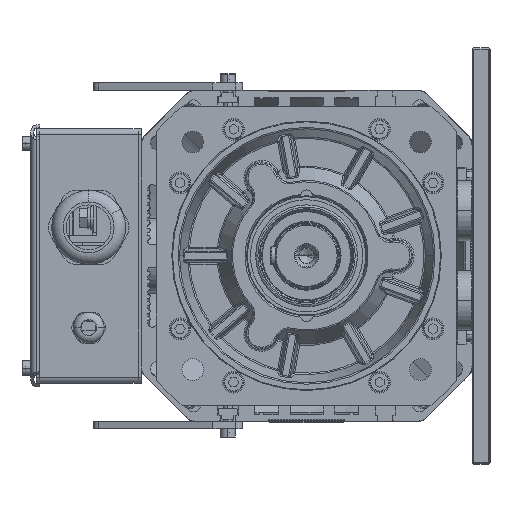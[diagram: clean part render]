
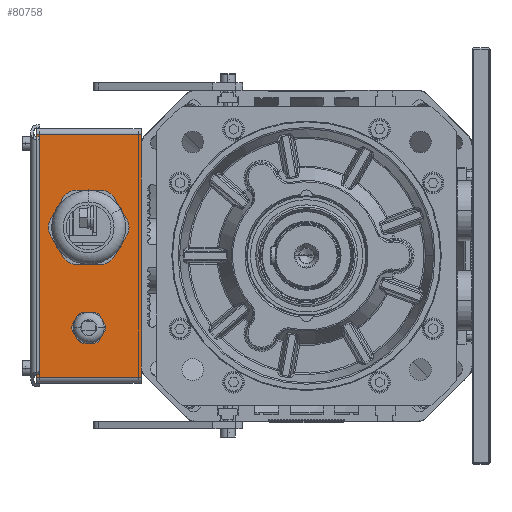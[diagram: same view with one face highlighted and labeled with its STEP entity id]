
A CAD part, left-side view. The second image highlights one B-rep face of the part: STEP entity #80758.
In plain terms, the highlighted planar face has unit normal (-1, 0, 0).
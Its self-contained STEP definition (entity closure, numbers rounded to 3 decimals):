
#78590=DIRECTION('',(0.,0.,1.));
#78591=VECTOR('',#78590,162.);
#78592=CARTESIAN_POINT('',(270.,110.5,-81.));
#78593=LINE('',#78592,#78591);
#78867=CARTESIAN_POINT('',(270.,145.5,-48.));
#78868=DIRECTION('',(-1.,0.,0.));
#78869=DIRECTION('',(0.,1.,0.));
#78870=AXIS2_PLACEMENT_3D('',#78867,#78868,#78869);
#78872=CARTESIAN_POINT('',(270.,145.5,-48.));
#78873=DIRECTION('',(-1.,0.,0.));
#78874=DIRECTION('',(0.,-1.,0.));
#78875=AXIS2_PLACEMENT_3D('',#78872,#78873,#78874);
#78877=CARTESIAN_POINT('',(270.,145.5,19.));
#78878=DIRECTION('',(-1.,0.,0.));
#78879=DIRECTION('',(0.,1.,0.));
#78880=AXIS2_PLACEMENT_3D('',#78877,#78878,#78879);
#78882=CARTESIAN_POINT('',(270.,145.5,19.));
#78883=DIRECTION('',(-1.,0.,0.));
#78884=DIRECTION('',(0.,-1.,0.));
#78885=AXIS2_PLACEMENT_3D('',#78882,#78883,#78884);
#78887=DIRECTION('',(0.,0.,1.));
#78888=VECTOR('',#78887,162.);
#78889=CARTESIAN_POINT('',(270.,180.5,-81.));
#78890=LINE('',#78889,#78888);
#79801=DIRECTION('',(0.,-1.,0.));
#79802=VECTOR('',#79801,70.);
#79803=CARTESIAN_POINT('',(270.,180.5,-81.));
#79804=LINE('',#79803,#79802);
#79821=DIRECTION('',(0.,1.,0.));
#79822=VECTOR('',#79821,70.);
#79823=CARTESIAN_POINT('',(270.,110.5,81.));
#79824=LINE('',#79823,#79822);
#80141=CARTESIAN_POINT('',(270.,155.5,-48.));
#80142=CARTESIAN_POINT('',(270.,135.5,-48.));
#80143=VERTEX_POINT('',#80141);
#80144=VERTEX_POINT('',#80142);
#80145=CARTESIAN_POINT('',(270.,170.5,19.));
#80146=CARTESIAN_POINT('',(270.,120.5,19.));
#80147=VERTEX_POINT('',#80145);
#80148=VERTEX_POINT('',#80146);
#80293=CARTESIAN_POINT('',(270.,110.5,-81.));
#80295=VERTEX_POINT('',#80293);
#80306=CARTESIAN_POINT('',(270.,110.5,81.));
#80308=VERTEX_POINT('',#80306);
#80341=CARTESIAN_POINT('',(270.,180.5,81.));
#80343=VERTEX_POINT('',#80341);
#80354=CARTESIAN_POINT('',(270.,180.5,-81.));
#80356=VERTEX_POINT('',#80354);
#80733=CARTESIAN_POINT('',(270.,110.5,-85.));
#80734=DIRECTION('',(-1.,0.,0.));
#80735=DIRECTION('',(0.,0.,1.));
#80736=AXIS2_PLACEMENT_3D('',#80733,#80734,#80735);
#80737=PLANE('',#80736);
#80739=ORIENTED_EDGE('',*,*,#80738,.F.);
#80740=ORIENTED_EDGE('',*,*,#80540,.F.);
#80742=ORIENTED_EDGE('',*,*,#80741,.F.);
#80743=ORIENTED_EDGE('',*,*,#80600,.T.);
#80744=EDGE_LOOP('',(#80739,#80740,#80742,#80743));
#80745=FACE_OUTER_BOUND('',#80744,.F.);
#80747=ORIENTED_EDGE('',*,*,#80746,.T.);
#80749=ORIENTED_EDGE('',*,*,#80748,.T.);
#80750=EDGE_LOOP('',(#80747,#80749));
#80751=FACE_BOUND('',#80750,.F.);
#80753=ORIENTED_EDGE('',*,*,#80752,.T.);
#80755=ORIENTED_EDGE('',*,*,#80754,.T.);
#80756=EDGE_LOOP('',(#80753,#80755));
#80757=FACE_BOUND('',#80756,.F.);
#80758=ADVANCED_FACE('',(#80745,#80751,#80757),#80737,.T.);
#78871=CIRCLE('',#78870,10.);
#78876=CIRCLE('',#78875,10.);
#78881=CIRCLE('',#78880,25.);
#78886=CIRCLE('',#78885,25.);
#80540=EDGE_CURVE('',#80295,#80308,#78593,.T.);
#80600=EDGE_CURVE('',#80356,#80343,#78890,.T.);
#80738=EDGE_CURVE('',#80308,#80343,#79824,.T.);
#80741=EDGE_CURVE('',#80356,#80295,#79804,.T.);
#80746=EDGE_CURVE('',#80147,#80148,#78881,.T.);
#80748=EDGE_CURVE('',#80148,#80147,#78886,.T.);
#80752=EDGE_CURVE('',#80143,#80144,#78871,.T.);
#80754=EDGE_CURVE('',#80144,#80143,#78876,.T.);
